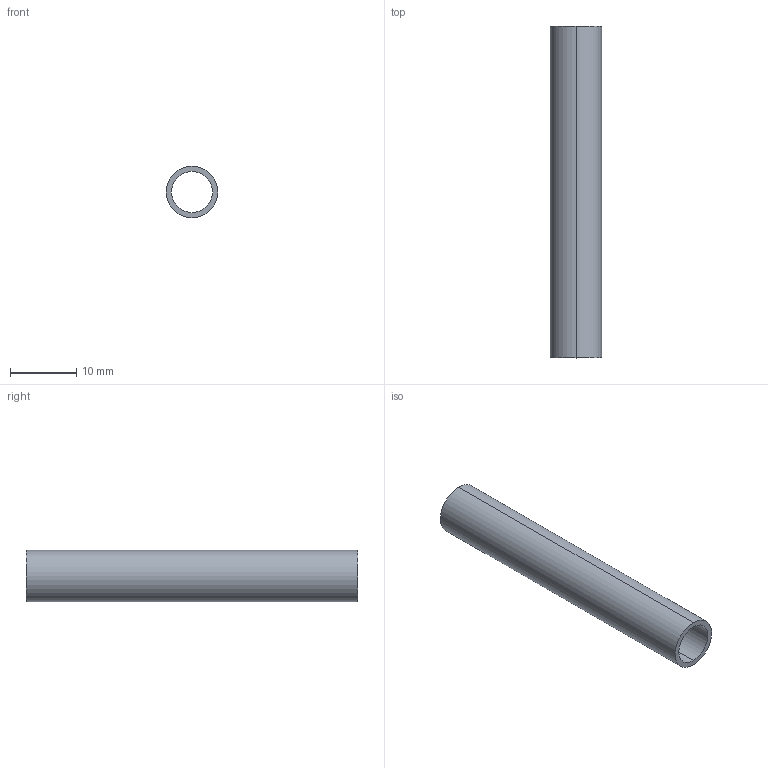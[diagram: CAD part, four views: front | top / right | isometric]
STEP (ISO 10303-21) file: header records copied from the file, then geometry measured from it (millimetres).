
FILE_DESCRIPTION(/* description */ ('(C) Elphel, Inc. 2026. Licensed under CERN OHL v.1.1 or later, see http://ohwr.org/cernohl'),/* implementation_level */ '2;1');
FILE_NAME(/* name */ '0393-18-84.stp',/* time_stamp */ '2026-08-12T11:05:21-07:00',/* author */ (''),/* organization */ ('Elphel, Inc'),/* preprocessor_version */ 'VariCAD 2020-1.02',/* originating_system */ 'VariCAD 2020-1.02; kernel version (20180118)',/* authorisation */ '');
FILE_SCHEMA(('AUTOMOTIVE_DESIGN'));
Length unit declared in the file: millimetre
Products named in the file (2): 0393-18-84
Assembly tree (1 placements, depth 2):
  0393-18-84
    0393-18-84
Bounding box: 7.8 x 50 x 7.8 mm (x, y, z)
Volume: 879.6 mm3; surface area: 2234.3 mm2
Topology: 1 solids, 1 shells, 6 faces, 12 edges, 8 vertices
Faces by surface type: cylinder 4, plane 2
Entity records: 222 total; most frequent: DIRECTION 40, CARTESIAN_POINT 30, ORIENTED_EDGE 24, AXIS2_PLACEMENT_3D 18, EDGE_CURVE 12, EDGE_LOOP 8, CIRCLE 8, VERTEX_POINT 8
